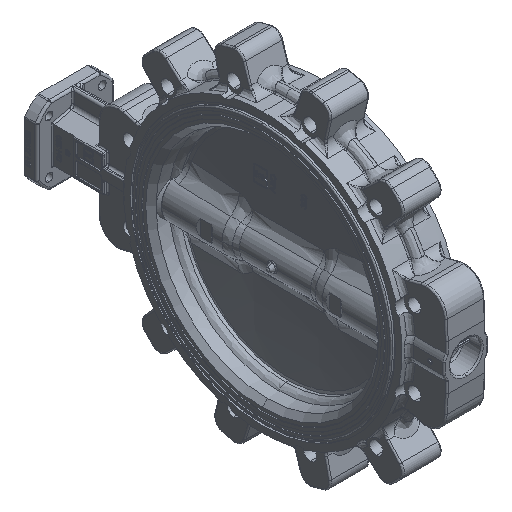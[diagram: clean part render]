
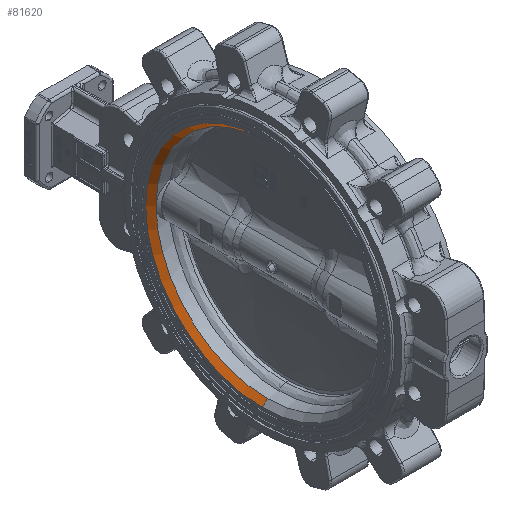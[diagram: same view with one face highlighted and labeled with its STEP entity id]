
A CAD part, isometric view. The second image highlights one B-rep face of the part: STEP entity #81620.
In plain terms, the highlighted conical face has half-angle 45 degrees and reference radius 158 mm.
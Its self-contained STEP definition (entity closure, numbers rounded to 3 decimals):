
#415 = LINE ( 'NONE', #61363, #37565 ) ;
#4711 = DIRECTION ( 'NONE',  ( -1., 0., 0. ) ) ;
#8692 = VERTEX_POINT ( 'NONE', #89642 ) ;
#9092 = ORIENTED_EDGE ( 'NONE', *, *, #93377, .F. ) ;
#9269 = ORIENTED_EDGE ( 'NONE', *, *, #82458, .T. ) ;
#9627 = ORIENTED_EDGE ( 'NONE', *, *, #62017, .T. ) ;
#9963 = CIRCLE ( 'NONE', #48887, 151. ) ;
#13713 = CARTESIAN_POINT ( 'NONE',  ( -33., 0., -151. ) ) ;
#19317 = DIRECTION ( 'NONE',  ( 0., 0., 1. ) ) ;
#20130 = CIRCLE ( 'NONE', #31994, 158. ) ;
#22077 = CARTESIAN_POINT ( 'NONE',  ( -40., 0., -158. ) ) ;
#24516 = CARTESIAN_POINT ( 'NONE',  ( -40., 0., 158. ) ) ;
#26538 = DIRECTION ( 'NONE',  ( 0., 0., 1. ) ) ;
#27809 = VECTOR ( 'NONE', #64218, 1000. ) ;
#27884 = VERTEX_POINT ( 'NONE', #13713 ) ;
#31558 = DIRECTION ( 'NONE',  ( -0.707, 0., 0.707 ) ) ;
#31994 = AXIS2_PLACEMENT_3D ( 'NONE', #70993, #42133, #26538 ) ;
#34368 = EDGE_LOOP ( 'NONE', ( #9092, #35437, #48238, #9627, #9269 ) ) ;
#35437 = ORIENTED_EDGE ( 'NONE', *, *, #54726, .F. ) ;
#35680 = CIRCLE ( 'NONE', #85589, 151. ) ;
#37301 = VERTEX_POINT ( 'NONE', #22077 ) ;
#37565 = VECTOR ( 'NONE', #31558, 1000. ) ;
#41525 = CARTESIAN_POINT ( 'NONE',  ( -40., 0., -158. ) ) ;
#42133 = DIRECTION ( 'NONE',  ( -1., 0., 0. ) ) ;
#46510 = DIRECTION ( 'NONE',  ( -1., 0., 0. ) ) ;
#48238 = ORIENTED_EDGE ( 'NONE', *, *, #72725, .F. ) ;
#48887 = AXIS2_PLACEMENT_3D ( 'NONE', #83060, #46510, #75036 ) ;
#50362 = CONICAL_SURFACE ( 'NONE', #76019, 158., 0.785 ) ;
#52486 = CARTESIAN_POINT ( 'NONE',  ( -33., 0., 0. ) ) ;
#54726 = EDGE_CURVE ( 'NONE', #8692, #27884, #9963, .T. ) ;
#59294 = DIRECTION ( 'NONE',  ( -1., 0., 0. ) ) ;
#59630 = FACE_OUTER_BOUND ( 'NONE', #34368, .T. ) ;
#59916 = DIRECTION ( 'NONE',  ( 0., 0., 1. ) ) ;
#61363 = CARTESIAN_POINT ( 'NONE',  ( -40., 0., 158. ) ) ;
#62017 = EDGE_CURVE ( 'NONE', #74966, #79453, #415, .T. ) ;
#64218 = DIRECTION ( 'NONE',  ( -0.707, 0., -0.707 ) ) ;
#70993 = CARTESIAN_POINT ( 'NONE',  ( -40., 0., 0. ) ) ;
#72725 = EDGE_CURVE ( 'NONE', #74966, #8692, #35680, .T. ) ;
#73071 = LINE ( 'NONE', #41525, #27809 ) ;
#74966 = VERTEX_POINT ( 'NONE', #87136 ) ;
#75036 = DIRECTION ( 'NONE',  ( 0., 0., 1. ) ) ;
#76019 = AXIS2_PLACEMENT_3D ( 'NONE', #94456, #4711, #19317 ) ;
#79453 = VERTEX_POINT ( 'NONE', #24516 ) ;
#81620 = ADVANCED_FACE ( 'NONE', ( #59630 ), #50362, .F. ) ;
#82458 = EDGE_CURVE ( 'NONE', #79453, #37301, #20130, .T. ) ;
#83060 = CARTESIAN_POINT ( 'NONE',  ( -33., 0., 0. ) ) ;
#85589 = AXIS2_PLACEMENT_3D ( 'NONE', #52486, #59294, #59916 ) ;
#87136 = CARTESIAN_POINT ( 'NONE',  ( -33., 0., 151. ) ) ;
#89642 = CARTESIAN_POINT ( 'NONE',  ( -33., 151., 0. ) ) ;
#93377 = EDGE_CURVE ( 'NONE', #27884, #37301, #73071, .T. ) ;
#94456 = CARTESIAN_POINT ( 'NONE',  ( -40., 0., 0. ) ) ;
